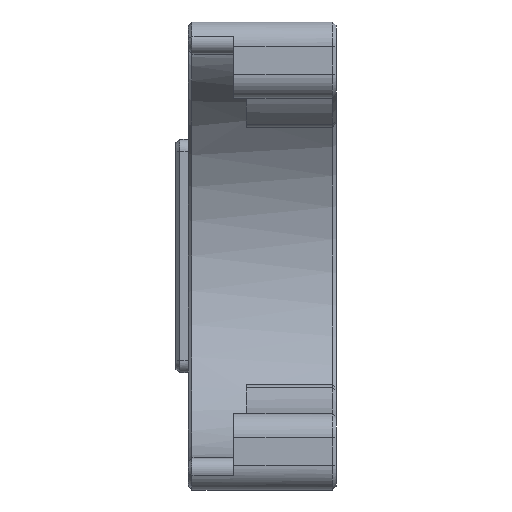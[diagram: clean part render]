
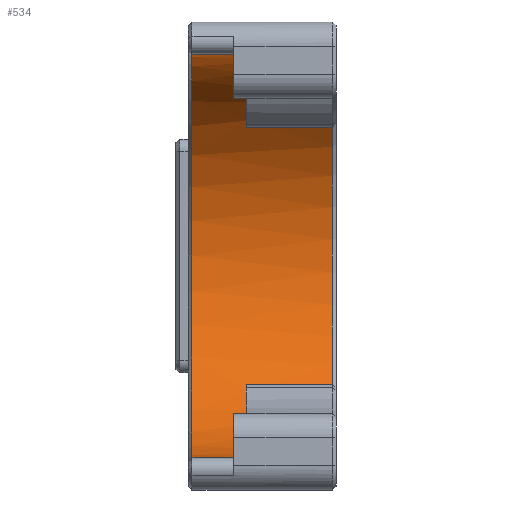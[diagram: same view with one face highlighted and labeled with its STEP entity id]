
A CAD part, left-side view. The second image highlights one B-rep face of the part: STEP entity #534.
In plain terms, the highlighted cylindrical face has radius 16.4 mm (diameter 32.8 mm), a partial arc.
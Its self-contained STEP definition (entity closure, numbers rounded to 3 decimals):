
#1 = EDGE_CURVE ( 'NONE', #2113, #2436, #295, .T. ) ;
#19 = VERTEX_POINT ( 'NONE', #367 ) ;
#31 = AXIS2_PLACEMENT_3D ( 'NONE', #2178, #2430, #3006 ) ;
#57 = CARTESIAN_POINT ( 'NONE',  ( -59., 1.8, 0. ) ) ;
#66 = DIRECTION ( 'NONE',  ( 0., 0., 1. ) ) ;
#181 = DIRECTION ( 'NONE',  ( 0., 1., 0. ) ) ;
#246 = VECTOR ( 'NONE', #2963, 1000. ) ;
#261 = VERTEX_POINT ( 'NONE', #477 ) ;
#266 = EDGE_CURVE ( 'NONE', #2153, #3041, #2027, .T. ) ;
#295 = LINE ( 'NONE', #1996, #1083 ) ;
#299 = ORIENTED_EDGE ( 'NONE', *, *, #1714, .T. ) ;
#357 = EDGE_CURVE ( 'NONE', #3447, #2436, #2786, .T. ) ;
#367 = CARTESIAN_POINT ( 'NONE',  ( -46.818, -6.2, 10.979 ) ) ;
#400 = CYLINDRICAL_SURFACE ( 'NONE', #2079, 16.4 ) ;
#442 = AXIS2_PLACEMENT_3D ( 'NONE', #1115, #3426, #871 ) ;
#477 = CARTESIAN_POINT ( 'NONE',  ( -59., 5.2, -16.4 ) ) ;
#484 = DIRECTION ( 'NONE',  ( 0., -1., 0. ) ) ;
#534 = ADVANCED_FACE ( 'NONE', ( #961 ), #400, .F. ) ;
#554 = VERTEX_POINT ( 'NONE', #1492 ) ;
#625 = EDGE_CURVE ( 'NONE', #554, #1344, #1906, .T. ) ;
#661 = CARTESIAN_POINT ( 'NONE',  ( -59., 6.5, -16.4 ) ) ;
#756 = DIRECTION ( 'NONE',  ( 0., 0., 1. ) ) ;
#807 = CARTESIAN_POINT ( 'NONE',  ( -59., 0.8, 0. ) ) ;
#840 = DIRECTION ( 'NONE',  ( 0., -1., 0. ) ) ;
#871 = DIRECTION ( 'NONE',  ( 0., 0., 1. ) ) ;
#925 = DIRECTION ( 'NONE',  ( 0., 0., -1. ) ) ;
#958 = EDGE_CURVE ( 'NONE', #3594, #3374, #1408, .T. ) ;
#961 = FACE_OUTER_BOUND ( 'NONE', #2677, .T. ) ;
#1082 = AXIS2_PLACEMENT_3D ( 'NONE', #1235, #2912, #3174 ) ;
#1083 = VECTOR ( 'NONE', #840, 1000. ) ;
#1086 = CIRCLE ( 'NONE', #3143, 16.4 ) ;
#1098 = ORIENTED_EDGE ( 'NONE', *, *, #625, .F. ) ;
#1102 = EDGE_CURVE ( 'NONE', #3374, #3041, #1324, .T. ) ;
#1115 = CARTESIAN_POINT ( 'NONE',  ( -59., -6.2, 0. ) ) ;
#1141 = AXIS2_PLACEMENT_3D ( 'NONE', #807, #181, #756 ) ;
#1231 = DIRECTION ( 'NONE',  ( 0., 0., 1. ) ) ;
#1234 = CARTESIAN_POINT ( 'NONE',  ( -46.818, 0.8, 10.979 ) ) ;
#1235 = CARTESIAN_POINT ( 'NONE',  ( -59., 0.8, 0. ) ) ;
#1264 = VECTOR ( 'NONE', #2379, 1000. ) ;
#1284 = CARTESIAN_POINT ( 'NONE',  ( -53.94, 6.5, -15.6 ) ) ;
#1324 = LINE ( 'NONE', #1284, #3354 ) ;
#1344 = VERTEX_POINT ( 'NONE', #1234 ) ;
#1408 = CIRCLE ( 'NONE', #2281, 16.4 ) ;
#1476 = DIRECTION ( 'NONE',  ( 0., -1., 0. ) ) ;
#1477 = DIRECTION ( 'NONE',  ( 0., -1., 0. ) ) ;
#1488 = EDGE_CURVE ( 'NONE', #2153, #2470, #2740, .T. ) ;
#1492 = CARTESIAN_POINT ( 'NONE',  ( -53.94, 0.8, 15.6 ) ) ;
#1566 = CARTESIAN_POINT ( 'NONE',  ( -46.818, 6.5, -10.979 ) ) ;
#1647 = ORIENTED_EDGE ( 'NONE', *, *, #3092, .T. ) ;
#1714 = EDGE_CURVE ( 'NONE', #19, #1344, #3198, .T. ) ;
#1721 = CARTESIAN_POINT ( 'NONE',  ( -59., 1.8, -16.4 ) ) ;
#1756 = VECTOR ( 'NONE', #2569, 1000. ) ;
#1852 = CARTESIAN_POINT ( 'NONE',  ( -46.818, 6.5, 10.979 ) ) ;
#1906 = CIRCLE ( 'NONE', #1082, 16.4 ) ;
#1938 = CARTESIAN_POINT ( 'NONE',  ( -46.818, -6.2, -10.979 ) ) ;
#1954 = ORIENTED_EDGE ( 'NONE', *, *, #266, .F. ) ;
#1979 = DIRECTION ( 'NONE',  ( 0., 1., 0. ) ) ;
#1996 = CARTESIAN_POINT ( 'NONE',  ( -59., 6.5, 16.4 ) ) ;
#2027 = CIRCLE ( 'NONE', #1141, 16.4 ) ;
#2061 = ORIENTED_EDGE ( 'NONE', *, *, #3205, .T. ) ;
#2079 = AXIS2_PLACEMENT_3D ( 'NONE', #2612, #1476, #925 ) ;
#2082 = CIRCLE ( 'NONE', #442, 16.4 ) ;
#2113 = VERTEX_POINT ( 'NONE', #2432 ) ;
#2138 = CARTESIAN_POINT ( 'NONE',  ( -53.94, 1.8, -15.6 ) ) ;
#2153 = VERTEX_POINT ( 'NONE', #2413 ) ;
#2178 = CARTESIAN_POINT ( 'NONE',  ( -59., 1.8, 0. ) ) ;
#2194 = CARTESIAN_POINT ( 'NONE',  ( -59., 1.8, 16.4 ) ) ;
#2236 = ORIENTED_EDGE ( 'NONE', *, *, #958, .T. ) ;
#2261 = CARTESIAN_POINT ( 'NONE',  ( -53.94, 6.5, 15.6 ) ) ;
#2281 = AXIS2_PLACEMENT_3D ( 'NONE', #57, #2867, #1231 ) ;
#2379 = DIRECTION ( 'NONE',  ( 0., 1., 0. ) ) ;
#2413 = CARTESIAN_POINT ( 'NONE',  ( -46.818, 0.8, -10.979 ) ) ;
#2430 = DIRECTION ( 'NONE',  ( 0., -1., 0. ) ) ;
#2432 = CARTESIAN_POINT ( 'NONE',  ( -59., 5.2, 16.4 ) ) ;
#2436 = VERTEX_POINT ( 'NONE', #2194 ) ;
#2470 = VERTEX_POINT ( 'NONE', #1938 ) ;
#2522 = CARTESIAN_POINT ( 'NONE',  ( -59., 5.2, 0. ) ) ;
#2551 = ORIENTED_EDGE ( 'NONE', *, *, #1488, .T. ) ;
#2555 = CARTESIAN_POINT ( 'NONE',  ( -53.94, 1.8, 15.6 ) ) ;
#2556 = LINE ( 'NONE', #2261, #1756 ) ;
#2569 = DIRECTION ( 'NONE',  ( 0., 1., 0. ) ) ;
#2612 = CARTESIAN_POINT ( 'NONE',  ( -59., 6.5, 0. ) ) ;
#2631 = EDGE_CURVE ( 'NONE', #554, #3447, #2556, .T. ) ;
#2658 = ORIENTED_EDGE ( 'NONE', *, *, #1102, .T. ) ;
#2677 = EDGE_LOOP ( 'NONE', ( #2551, #2952, #299, #1098, #3352, #3455, #3328, #1647, #2061, #2236, #2658, #1954 ) ) ;
#2740 = LINE ( 'NONE', #1566, #246 ) ;
#2786 = CIRCLE ( 'NONE', #31, 16.4 ) ;
#2857 = CARTESIAN_POINT ( 'NONE',  ( -53.94, 0.8, -15.6 ) ) ;
#2867 = DIRECTION ( 'NONE',  ( 0., -1., 0. ) ) ;
#2912 = DIRECTION ( 'NONE',  ( 0., 1., 0. ) ) ;
#2952 = ORIENTED_EDGE ( 'NONE', *, *, #3115, .T. ) ;
#2963 = DIRECTION ( 'NONE',  ( 0., -1., 0. ) ) ;
#2965 = LINE ( 'NONE', #661, #3487 ) ;
#3006 = DIRECTION ( 'NONE',  ( 0., 0., -1. ) ) ;
#3041 = VERTEX_POINT ( 'NONE', #2857 ) ;
#3092 = EDGE_CURVE ( 'NONE', #2113, #261, #1086, .T. ) ;
#3115 = EDGE_CURVE ( 'NONE', #2470, #19, #2082, .T. ) ;
#3143 = AXIS2_PLACEMENT_3D ( 'NONE', #2522, #1979, #66 ) ;
#3174 = DIRECTION ( 'NONE',  ( 0., 0., -1. ) ) ;
#3198 = LINE ( 'NONE', #1852, #1264 ) ;
#3205 = EDGE_CURVE ( 'NONE', #261, #3594, #2965, .T. ) ;
#3328 = ORIENTED_EDGE ( 'NONE', *, *, #1, .F. ) ;
#3352 = ORIENTED_EDGE ( 'NONE', *, *, #2631, .T. ) ;
#3354 = VECTOR ( 'NONE', #484, 1000. ) ;
#3374 = VERTEX_POINT ( 'NONE', #2138 ) ;
#3426 = DIRECTION ( 'NONE',  ( 0., -1., 0. ) ) ;
#3447 = VERTEX_POINT ( 'NONE', #2555 ) ;
#3455 = ORIENTED_EDGE ( 'NONE', *, *, #357, .T. ) ;
#3487 = VECTOR ( 'NONE', #1477, 1000. ) ;
#3594 = VERTEX_POINT ( 'NONE', #1721 ) ;
